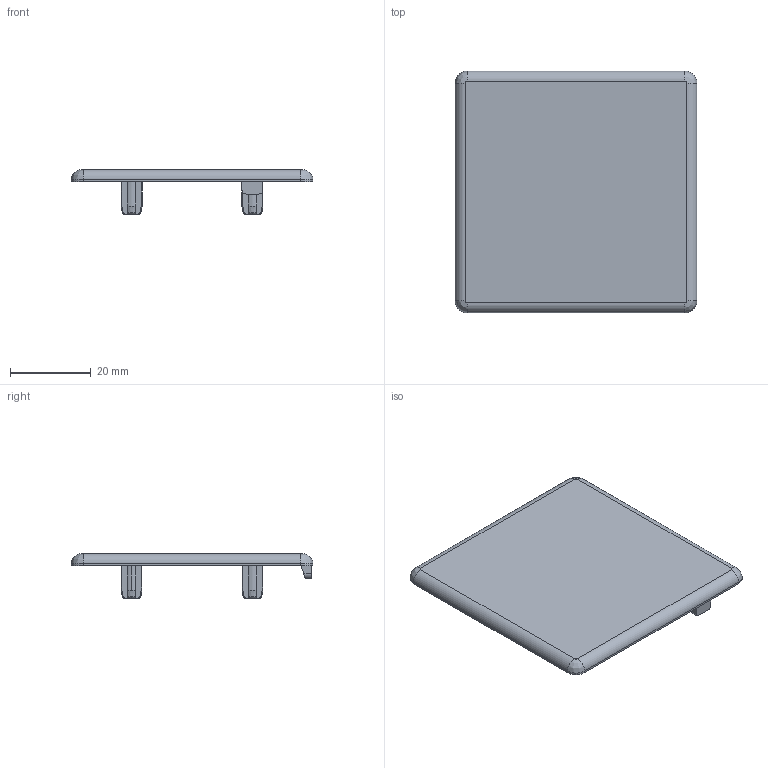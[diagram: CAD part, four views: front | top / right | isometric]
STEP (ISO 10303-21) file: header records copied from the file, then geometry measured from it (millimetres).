
FILE_DESCRIPTION (( 'STEP AP203' ), '1' );
FILE_NAME ('0106AK6060.STEP', '2024-03-07T08:59:44', ( 'Windows-Benutzer' ), ( '' ), 'SwSTEP 2.0', 'SolidWorks 2023', '' );
FILE_SCHEMA (( 'CONFIG_CONTROL_DESIGN' ));
Length unit declared in the file: millimetre
Products named in the file (1): 0106AK6060
Bounding box: 60 x 60 x 11 mm (x, y, z)
Volume: 8168.3 mm3; surface area: 8569.8 mm2
Topology: 1 solids, 1 shells, 145 faces, 400 edges, 262 vertices
Faces by surface type: plane 60, cylinder 38, torus 23, cone 20, bspline 4
Entity records: 4914 total; most frequent: CARTESIAN_POINT 1174, ORIENTED_EDGE 800, DIRECTION 745, EDGE_CURVE 400, AXIS2_PLACEMENT_3D 273, VERTEX_POINT 262, LINE 199, VECTOR 199
